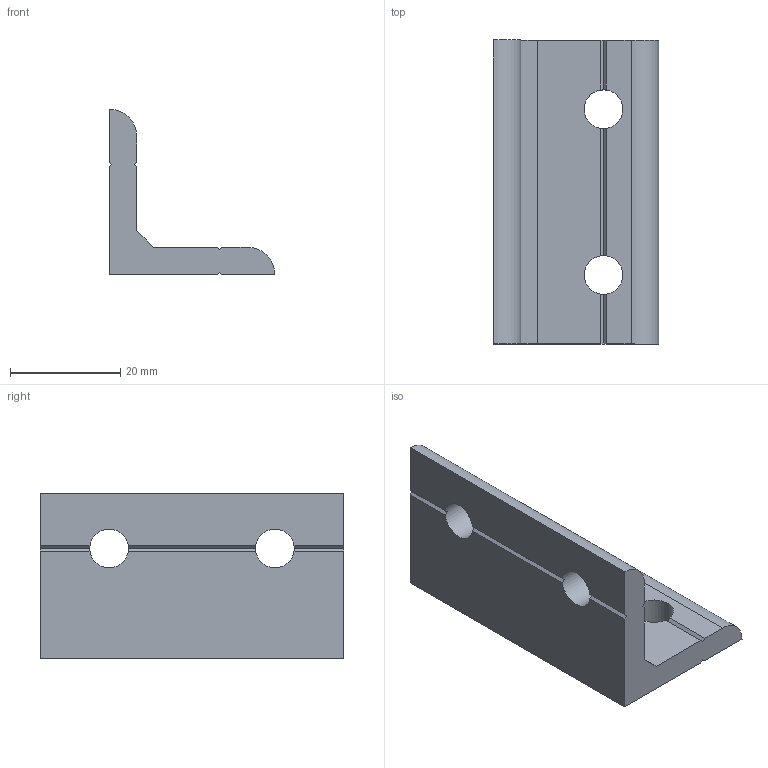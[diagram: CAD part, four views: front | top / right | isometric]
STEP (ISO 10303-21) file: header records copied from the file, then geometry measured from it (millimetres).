
FILE_DESCRIPTION(/* description */ ('Unknown'),/* implementation_level */ '2;1');
FILE_NAME(/* name */ 'AL5530',/* time_stamp */ '2026-09-17T13:22:39+08:00',/* author */ ('Unknown'),/* organization */ ('Unknown'),/* preprocessor_version */ 'ST-DEVELOPER v16.7',/* originating_system */ 'DEX',/* authorisation */ $);
FILE_SCHEMA (('AUTOMOTIVE_DESIGN {1 0 10303 214 3 1 1}'));
Length unit declared in the file: millimetre
Products named in the file (1): AL5530
Bounding box: 30 x 55 x 30 mm (x, y, z)
Volume: 13971.6 mm3; surface area: 6998.8 mm2
Topology: 1 solids, 1 shells, 41 faces, 133 edges, 86 vertices
Faces by surface type: plane 35, cylinder 6
Full cylindrical faces by diameter (mm): 7 x4
Entity records: 1501 total; most frequent: DIRECTION 265, ORIENTED_EDGE 258, CARTESIAN_POINT 257, EDGE_CURVE 129, AXIS2_PLACEMENT_3D 94, VERTEX_POINT 86, LINE 77, VECTOR 77
